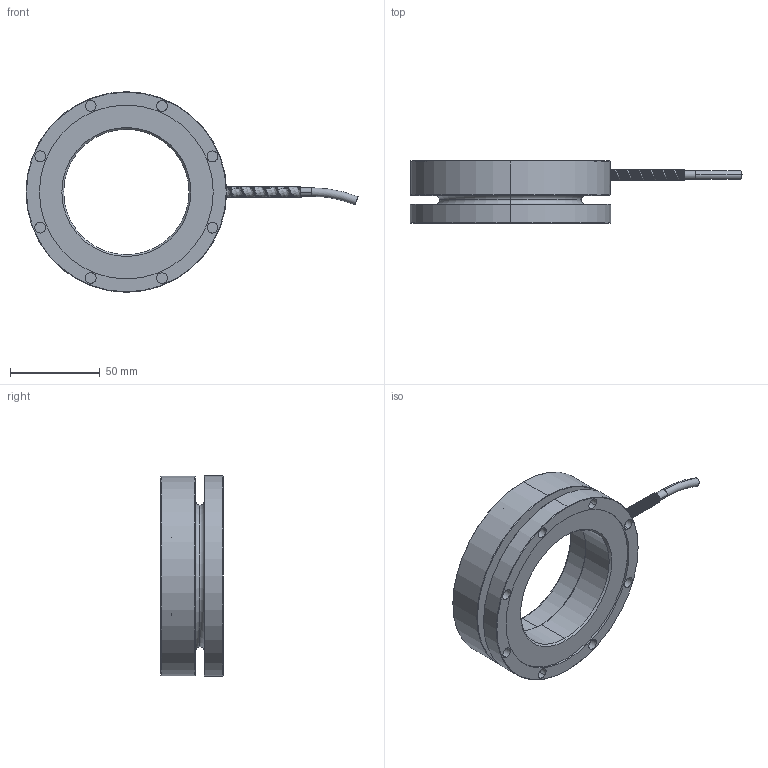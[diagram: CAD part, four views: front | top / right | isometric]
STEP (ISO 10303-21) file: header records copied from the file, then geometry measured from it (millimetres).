
FILE_DESCRIPTION (( 'STEP AP214' ), '1' );
FILE_NAME ('PFLC(Press Force LC)-MC- AN1128 & AN1129.STEP', '2020-04-11T08:36:46', ( '' ), ( '' ), 'SwSTEP 2.0', 'SolidWorks 2011', '' );
FILE_SCHEMA (( 'AUTOMOTIVE_DESIGN' ));
Length unit declared in the file: millimetre
Products named in the file (5): MMACH-A006438; SPR-A007682; MMACH-A006375; cable^PFLC-MC-MC; PFLC(Press Force LC)-MC- AN1128 & AN1129
Assembly tree (4 placements, depth 2):
  PFLC(Press Force LC)-MC- AN1128 & AN1129
    SPR-A007682
    MMACH-A006438
    MMACH-A006375
    cable^PFLC-MC-MC
Bounding box: 185.3 x 35 x 112 mm (x, y, z)
Volume: 169994 mm3; surface area: 59021.3 mm2
Topology: 4 solids, 4 shells, 161 faces, 404 edges, 250 vertices
Faces by surface type: cylinder 91, plane 30, cone 28, torus 10, bspline 2
Entity records: 20660 total; most frequent: CARTESIAN_POINT 16412, DIRECTION 942, ORIENTED_EDGE 776, AXIS2_PLACEMENT_3D 404, EDGE_CURVE 388, VERTEX_POINT 250, CIRCLE 238, EDGE_LOOP 196
